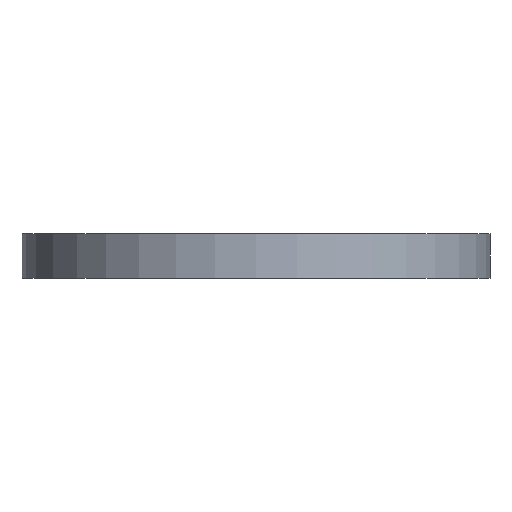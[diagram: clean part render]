
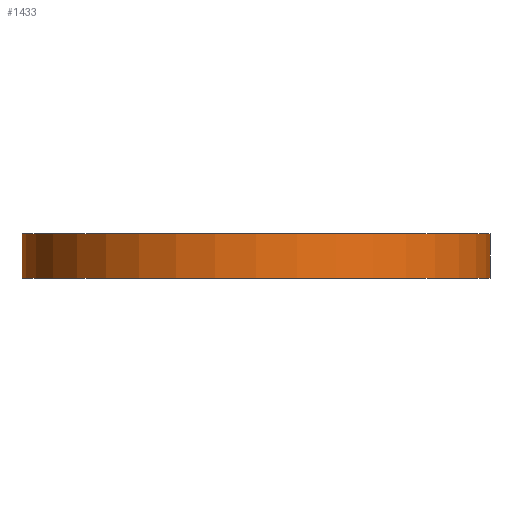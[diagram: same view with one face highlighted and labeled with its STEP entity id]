
A CAD part, front view. The second image highlights one B-rep face of the part: STEP entity #1433.
In plain terms, the highlighted cylindrical face has radius 377.5 mm (diameter 755 mm), a partial arc.
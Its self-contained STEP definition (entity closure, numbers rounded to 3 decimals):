
#15 = CARTESIAN_POINT ( 'NONE',  ( 0., 0., -72. ) ) ;
#72 = CARTESIAN_POINT ( 'NONE',  ( 377.5, 0., -72. ) ) ;
#121 = DIRECTION ( 'NONE',  ( 0., 0., 1. ) ) ;
#122 = CARTESIAN_POINT ( 'NONE',  ( -377.5, 0., -150. ) ) ;
#125 = LINE ( 'NONE', #122, #469 ) ;
#129 = CARTESIAN_POINT ( 'NONE',  ( -377.5, 0., 0. ) ) ;
#211 = DIRECTION ( 'NONE',  ( 0., 0., 1. ) ) ;
#387 = EDGE_LOOP ( 'NONE', ( #1192, #1193, #1195, #1199 ) ) ;
#469 = VECTOR ( 'NONE', #121, 1000. ) ;
#476 = VERTEX_POINT ( 'NONE', #129 ) ;
#481 = EDGE_CURVE ( 'NONE', #1415, #476, #125, .T. ) ;
#527 = DIRECTION ( 'NONE',  ( 1., 0., 0. ) ) ;
#563 = AXIS2_PLACEMENT_3D ( 'NONE', #15, #818, #1346 ) ;
#577 = VERTEX_POINT ( 'NONE', #72 ) ;
#611 = CIRCLE ( 'NONE', #563, 377.5 ) ;
#694 = DIRECTION ( 'NONE',  ( 0., 0., 1. ) ) ;
#745 = EDGE_CURVE ( 'NONE', #476, #763, #812, .T. ) ;
#763 = VERTEX_POINT ( 'NONE', #1565 ) ;
#798 = FACE_OUTER_BOUND ( 'NONE', #387, .T. ) ;
#812 = CIRCLE ( 'NONE', #1384, 377.5 ) ;
#818 = DIRECTION ( 'NONE',  ( 0., 0., -1. ) ) ;
#910 = LINE ( 'NONE', #1406, #1485 ) ;
#1063 = EDGE_CURVE ( 'NONE', #577, #1415, #611, .T. ) ;
#1172 = DIRECTION ( 'NONE',  ( 1., 0., 0. ) ) ;
#1192 = ORIENTED_EDGE ( 'NONE', *, *, #481, .F. ) ;
#1193 = ORIENTED_EDGE ( 'NONE', *, *, #1063, .F. ) ;
#1195 = ORIENTED_EDGE ( 'NONE', *, *, #1331, .T. ) ;
#1199 = ORIENTED_EDGE ( 'NONE', *, *, #745, .F. ) ;
#1327 = CARTESIAN_POINT ( 'NONE',  ( -377.5, 0., -72. ) ) ;
#1328 = CARTESIAN_POINT ( 'NONE',  ( 0., 0., 0. ) ) ;
#1331 = EDGE_CURVE ( 'NONE', #577, #763, #910, .T. ) ;
#1335 = CYLINDRICAL_SURFACE ( 'NONE', #1454, 377.5 ) ;
#1346 = DIRECTION ( 'NONE',  ( -1., 0., 0. ) ) ;
#1384 = AXIS2_PLACEMENT_3D ( 'NONE', #1328, #211, #527 ) ;
#1406 = CARTESIAN_POINT ( 'NONE',  ( 377.5, 0., -150. ) ) ;
#1415 = VERTEX_POINT ( 'NONE', #1327 ) ;
#1433 = ADVANCED_FACE ( 'NONE', ( #798 ), #1335, .T. ) ;
#1454 = AXIS2_PLACEMENT_3D ( 'NONE', #1632, #694, #1172 ) ;
#1485 = VECTOR ( 'NONE', #1674, 1000. ) ;
#1565 = CARTESIAN_POINT ( 'NONE',  ( 377.5, 0., 0. ) ) ;
#1632 = CARTESIAN_POINT ( 'NONE',  ( 0., 0., -150. ) ) ;
#1674 = DIRECTION ( 'NONE',  ( 0., 0., 1. ) ) ;
